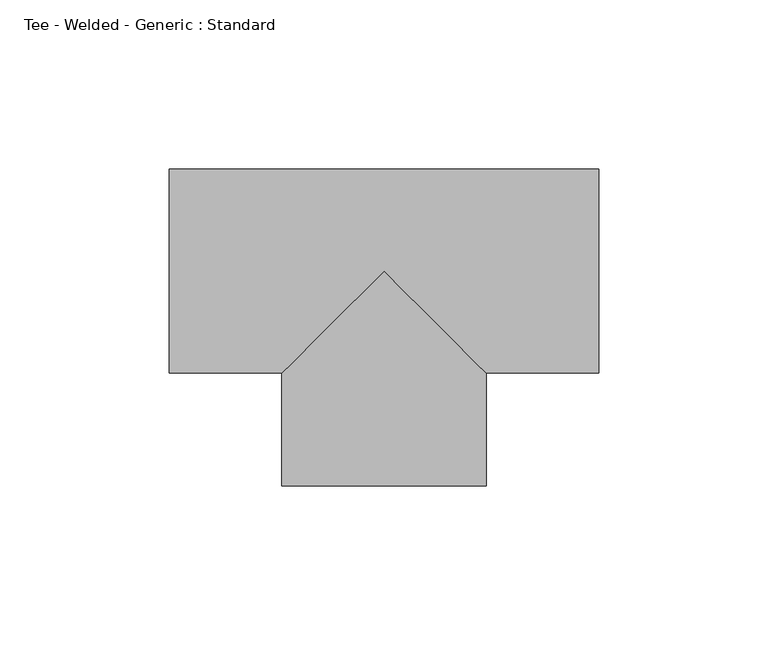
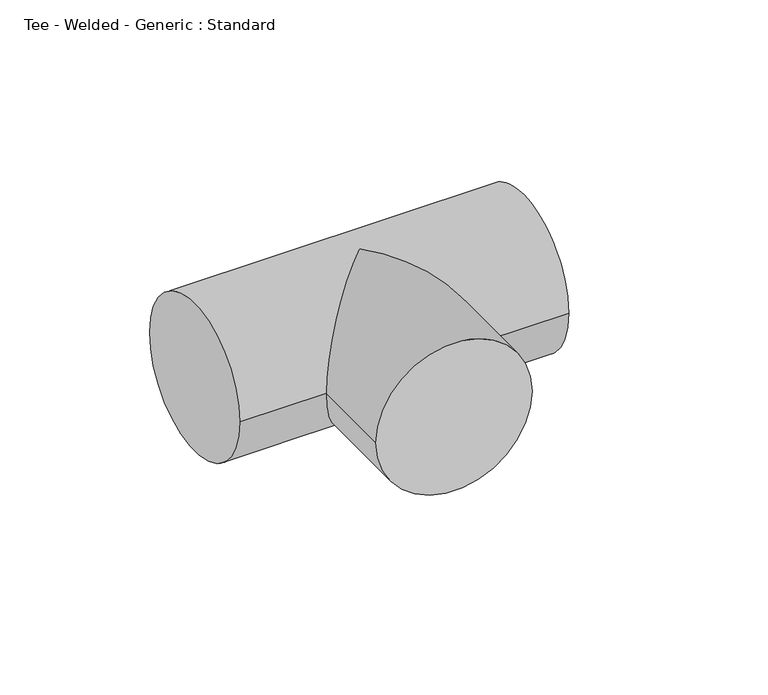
"""IFC4 building model written with IfcOpenShell, lengths in millimetres: pipe fitting geometry, Tee - Welded - Generic : Standard."""

from ifc_helpers import new_model, si_unit, frame, origin, place, context, project, spatial, circle_curve, ellipse_curve, source, transform, mapped, element, save
from ifc_brep_helpers import plane_surface, cylinder_surface, advanced_brep


def tee_welded_generic_standard_168467d6(model_context):
    return source(origin(), model_context, "Body", "AdvancedBrep", [
        advanced_brep(
        [(-63.5, -30.1625, 0.0), (-63.5, 30.1625, 0.0), (63.5, -30.1625, 0.0), (63.5, 30.1625, 0.0), (-30.1582515, -30.1625, 0.0), (0.0, 0.0, 30.1625), (30.1667491, -30.1625, 0.0), (0.0, 0.0, -30.1625), (-30.1535548, -63.5042482, 0.0), (30.1714446, -63.4957505, 0.0)],
        [
            (0, 1, circle_curve(frame((-63.5, 0.0, 0.0), z_axis=(-1.0, 0.0, 0.0), x_axis=(0.0, 1.0, 0.0)), 30.1625)),
            (1, 0, circle_curve(frame((-63.5, 0.0, 0.0), z_axis=(-1.0, 0.0, 0.0), x_axis=(0.0, 1.0, 0.0)), 30.1625)),
            (2, 3, circle_curve(frame((63.5, 0.0, 0.0), z_axis=(1.0, 0.0, 0.0), x_axis=(0.0, 1.0, 0.0)), 30.1625)),
            (3, 2, circle_curve(frame((63.5, 0.0, 0.0), z_axis=(1.0, 0.0, 0.0), x_axis=(0.0, 1.0, 0.0)), 30.1625)),
            (0, 4),
            (4, 5, ellipse_curve(frame((0.0, 0.0, 0.0), z_axis=(-0.7071565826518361, 0.7070569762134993, 0.0), x_axis=(-0.7070569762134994, -0.707156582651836, 0.0)), 42.6532125, 30.1625)),
            (5, 6, ellipse_curve(frame((0.0, 0.0, 0.0), z_axis=(0.7070569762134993, 0.707156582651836, 0.0), x_axis=(-0.7071565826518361, 0.7070569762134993, 0.0)), 42.6592213, 30.1625)),
            (6, 2),
            (3, 1),
            (6, 7, ellipse_curve(frame((0.0, 0.0, 0.0), z_axis=(0.7070569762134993, 0.707156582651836, 0.0), x_axis=(-0.7071565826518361, 0.7070569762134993, 0.0)), 42.6592213, 30.1625)),
            (7, 4, ellipse_curve(frame((0.0, 0.0, 0.0), z_axis=(-0.7071565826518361, 0.7070569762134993, 0.0), x_axis=(-0.7070569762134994, -0.707156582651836, 0.0)), 42.6532125, 30.1625)),
            (8, 9, circle_curve(frame((0.0089449, -63.4999994, 0.0), z_axis=(0.0001408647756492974, -0.9999999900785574, 0.0), x_axis=(0.9999999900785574, 0.0001408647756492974, 0.0)), 30.1625)),
            (9, 8, circle_curve(frame((0.0089449, -63.4999994, 0.0), z_axis=(0.0001408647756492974, -0.9999999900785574, 0.0), x_axis=(0.9999999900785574, 0.0001408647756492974, 0.0)), 30.1625)),
            (9, 6),
            (4, 8),
        ],
        [
            plane_surface(frame((-63.5, 0.0, 0.0), z_axis=(-1.0, 0.0, 0.0), x_axis=(0.0, 0.0, 1.0))),
            plane_surface(frame((63.5, 0.0, 0.0), z_axis=(1.0, 0.0, 0.0), x_axis=(0.0, 0.0, 1.0))),
            cylinder_surface(frame((-63.5, 0.0, 0.0), z_axis=(-1.0, 0.0, 0.0), x_axis=(0.0, 1.0, 0.0)), 30.1625),
            plane_surface(frame((0.0089449, -63.4999994, 0.0), z_axis=(0.0001408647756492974, -0.9999999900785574, 0.0), x_axis=(0.0, 0.0, 1.0))),
            cylinder_surface(frame((0.0, 0.0, 0.0), z_axis=(-0.0001408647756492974, 0.9999999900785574, 0.0), x_axis=(0.9999999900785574, 0.0001408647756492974, 0.0)), 30.1625),
        ],
        [
            (0, [[1, 2]]),
            (1, [[3, 4]]),
            (2, [[-1, 5, 6, 7, 8, -4, 9]]),
            (2, [[-2, -9, -3, -8, 10, 11, -5]]),
            (3, [[12, 13]]),
            (4, [[-13, 14, -7, -6, 15]]),
            (4, [[-12, -15, -11, -10, -14]]),
        ],
    ),
    ])


if __name__ == "__main__":
    model = new_model("IFC4")
    model_context = context("Model", 3, world=origin())
    ifc_project = project(units=[si_unit("LENGTHUNIT", "METRE", prefix="MILLI")], contexts=[model_context])
    site = spatial("IfcSite", under=ifc_project)
    building = spatial("IfcBuilding", under=site)
    placement = place(None, origin())
    tee_welded_generic_standard_shape = tee_welded_generic_standard_168467d6(model_context)
    element("IfcPipeFitting", 1, ObjectType="Tee - Welded - Generic : Standard", at=placement, inside=building, context=model_context, shape_type="MappedRepresentation", body=[
        mapped(tee_welded_generic_standard_shape, transform((0.0, 0.0, 0.0), x_axis=(1.0, 0.0, 0.0), y_axis=(0.0, 1.0, 0.0), z_axis=(0.0, 0.0, 1.0))),
    ])
    save(model, "model.ifc")
